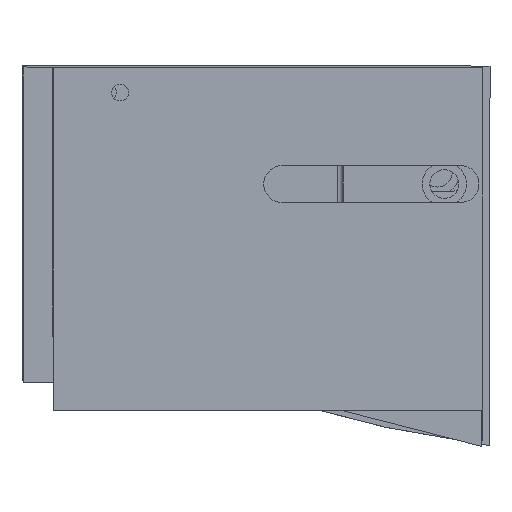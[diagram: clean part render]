
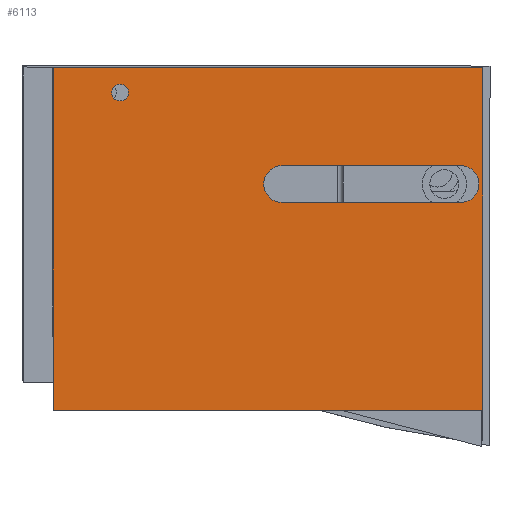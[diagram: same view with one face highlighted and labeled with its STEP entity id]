
A CAD part, left-side view. The second image highlights one B-rep face of the part: STEP entity #6113.
In plain terms, the highlighted planar face has unit normal (-1, 0, 0) as drawn and (1, 0, 0) by its records, which use the part's own axes.
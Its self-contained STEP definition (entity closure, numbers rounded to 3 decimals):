
#293=FACE_BOUND('',#1094,.T.);
#294=FACE_BOUND('',#1095,.T.);
#447=CIRCLE('',#6638,3.315);
#448=CIRCLE('',#6639,3.315);
#449=CIRCLE('',#6640,1.5);
#739=FACE_OUTER_BOUND('',#1093,.T.);
#1093=EDGE_LOOP('',(#4899,#4900,#4901,#4902));
#1094=EDGE_LOOP('',(#4903,#4904,#4905,#4906));
#1095=EDGE_LOOP('',(#4907));
#1585=LINE('',#10325,#2199);
#1596=LINE('',#10362,#2210);
#1604=LINE('',#10392,#2218);
#1616=LINE('',#10434,#2230);
#1617=LINE('',#10437,#2231);
#1618=LINE('',#10441,#2232);
#2199=VECTOR('',#7715,10.);
#2210=VECTOR('',#7744,10.);
#2218=VECTOR('',#7768,10.);
#2230=VECTOR('',#7800,10.);
#2231=VECTOR('',#7801,10.);
#2232=VECTOR('',#7804,10.);
#2806=VERTEX_POINT('',#10321);
#2808=VERTEX_POINT('',#10324);
#2825=VERTEX_POINT('',#10360);
#2833=VERTEX_POINT('',#10390);
#2854=VERTEX_POINT('',#10435);
#2855=VERTEX_POINT('',#10436);
#2856=VERTEX_POINT('',#10438);
#2857=VERTEX_POINT('',#10440);
#2858=VERTEX_POINT('',#10443);
#3536=EDGE_CURVE('',#2806,#2808,#1585,.T.);
#3555=EDGE_CURVE('',#2806,#2825,#1596,.T.);
#3568=EDGE_CURVE('',#2833,#2825,#1604,.T.);
#3589=EDGE_CURVE('',#2808,#2833,#1616,.T.);
#3590=EDGE_CURVE('',#2854,#2855,#1617,.T.);
#3591=EDGE_CURVE('',#2855,#2856,#447,.T.);
#3592=EDGE_CURVE('',#2856,#2857,#1618,.F.);
#3593=EDGE_CURVE('',#2857,#2854,#448,.T.);
#3594=EDGE_CURVE('',#2858,#2858,#449,.T.);
#4899=ORIENTED_EDGE('',*,*,#3536,.F.);
#4900=ORIENTED_EDGE('',*,*,#3555,.T.);
#4901=ORIENTED_EDGE('',*,*,#3568,.F.);
#4902=ORIENTED_EDGE('',*,*,#3589,.F.);
#4903=ORIENTED_EDGE('',*,*,#3590,.T.);
#4904=ORIENTED_EDGE('',*,*,#3591,.T.);
#4905=ORIENTED_EDGE('',*,*,#3592,.T.);
#4906=ORIENTED_EDGE('',*,*,#3593,.T.);
#4907=ORIENTED_EDGE('',*,*,#3594,.F.);
#5863=PLANE('',#6637);
#6113=ADVANCED_FACE('',(#739,#293,#294),#5863,.F.);
#6637=AXIS2_PLACEMENT_3D('',#10433,#7798,#7799);
#6638=AXIS2_PLACEMENT_3D('',#10439,#7802,#7803);
#6639=AXIS2_PLACEMENT_3D('',#10442,#7805,#7806);
#6640=AXIS2_PLACEMENT_3D('',#10444,#7807,#7808);
#7715=DIRECTION('',(0.,-1.,0.));
#7744=DIRECTION('',(0.,0.,1.));
#7768=DIRECTION('',(0.,1.,-0.001));
#7798=DIRECTION('center_axis',(-1.,0.,0.));
#7799=DIRECTION('ref_axis',(0.,1.,0.));
#7800=DIRECTION('',(0.,0.,1.));
#7801=DIRECTION('',(0.,1.,0.));
#7802=DIRECTION('center_axis',(-1.,0.,0.));
#7803=DIRECTION('ref_axis',(0.,0.,-1.));
#7804=DIRECTION('',(0.,1.,0.));
#7805=DIRECTION('center_axis',(-1.,0.,0.));
#7806=DIRECTION('ref_axis',(0.,0.,1.));
#7807=DIRECTION('center_axis',(1.,0.,0.));
#7808=DIRECTION('ref_axis',(0.,-1.,0.));
#10321=CARTESIAN_POINT('',(15.24,-75.158,-101.05));
#10324=CARTESIAN_POINT('',(15.24,-152.158,-101.05));
#10325=CARTESIAN_POINT('',(15.24,-142.862,-101.05));
#10360=CARTESIAN_POINT('',(15.24,-75.158,-39.59));
#10362=CARTESIAN_POINT('',(15.24,-75.158,-58.05));
#10390=CARTESIAN_POINT('',(15.24,-152.158,-39.531));
#10392=CARTESIAN_POINT('',(15.24,-96.377,-39.574));
#10433=CARTESIAN_POINT('Origin',(15.24,-140.158,-44.05));
#10434=CARTESIAN_POINT('',(15.24,-152.158,-48.555));
#10435=CARTESIAN_POINT('',(15.24,-111.11,-57.134));
#10436=CARTESIAN_POINT('',(15.24,-79.112,-57.134));
#10437=CARTESIAN_POINT('',(15.24,-99.632,-57.134));
#10438=CARTESIAN_POINT('',(15.24,-79.112,-63.764));
#10439=CARTESIAN_POINT('Origin',(15.24,-79.112,-60.449));
#10440=CARTESIAN_POINT('',(15.24,-111.11,-63.764));
#10441=CARTESIAN_POINT('',(15.24,-110.131,-63.764));
#10442=CARTESIAN_POINT('Origin',(15.24,-111.091,-60.449));
#10443=CARTESIAN_POINT('',(15.24,-138.658,-44.05));
#10444=CARTESIAN_POINT('Origin',(15.24,-140.158,-44.05));
